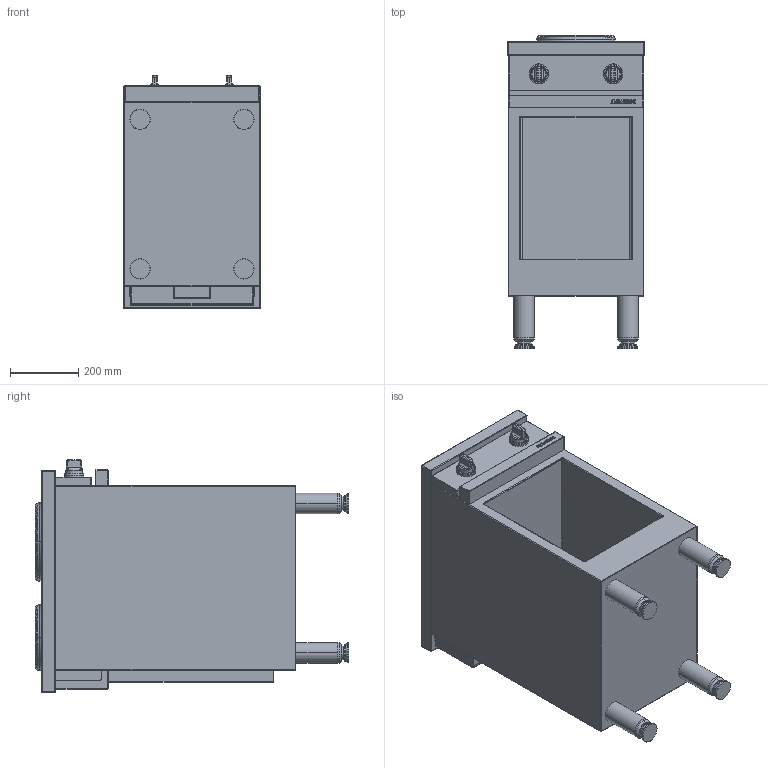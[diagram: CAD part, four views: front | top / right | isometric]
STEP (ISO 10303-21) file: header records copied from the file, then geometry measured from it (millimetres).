
FILE_DESCRIPTION((''),'2;1');
FILE_NAME('CME423E_EXPORT_STEP_ASM','2017-11-22T',('r.avril'),(''),'PRO/ENGINEER BY PARAMETRIC TECHNOLOGY CORPORATION, 2014200','PRO/ENGINEER BY PARAMETRIC TECHNOLOGY CORPORATION, 2014200','');
FILE_SCHEMA(('AP203_CONFIGURATION_CONTROLLED_3D_DESIGN_OF_MECHANICAL_PARTS_AND_ASSEMBLIES_MIM_LF { 1 0 10303 403 2 1 2 }'));
Length unit declared in the file: millimetre
Products named in the file (5): MODULES_AMB_400_EXPORT_STEP; TABLE_423_PLQ_ELEC; TABLE_423_PLQ_ELEC_ASM; MANETTE_AMB_EXPORT_STEP; CME423E_EXPORT_STEP_ASM
Assembly tree (5 placements, depth 3):
  CME423E_EXPORT_STEP_ASM
    MODULES_AMB_400_EXPORT_STEP
    TABLE_423_PLQ_ELEC_ASM
      TABLE_423_PLQ_ELEC
    MANETTE_AMB_EXPORT_STEP  x2
Bounding box: 400 x 918.8 x 682.5 mm (x, y, z)
Volume: 57092390 mm3; surface area: 4106121.7 mm2
Topology: 14 solids, 32 shells, 454 faces, 1623 edges, 1472 vertices
Faces by surface type: cylinder 139, plane 139, torus 64, sphere 44, cone 44, bspline 24
Entity records: 20795 total; most frequent: CARTESIAN_POINT 5556, DIRECTION 2487, ORIENTED_EDGE 2084, EDGE_CURVE 1267, VERTEX_POINT 921, AXIS2_PLACEMENT_3D 912, VECTOR 648, LINE 648
